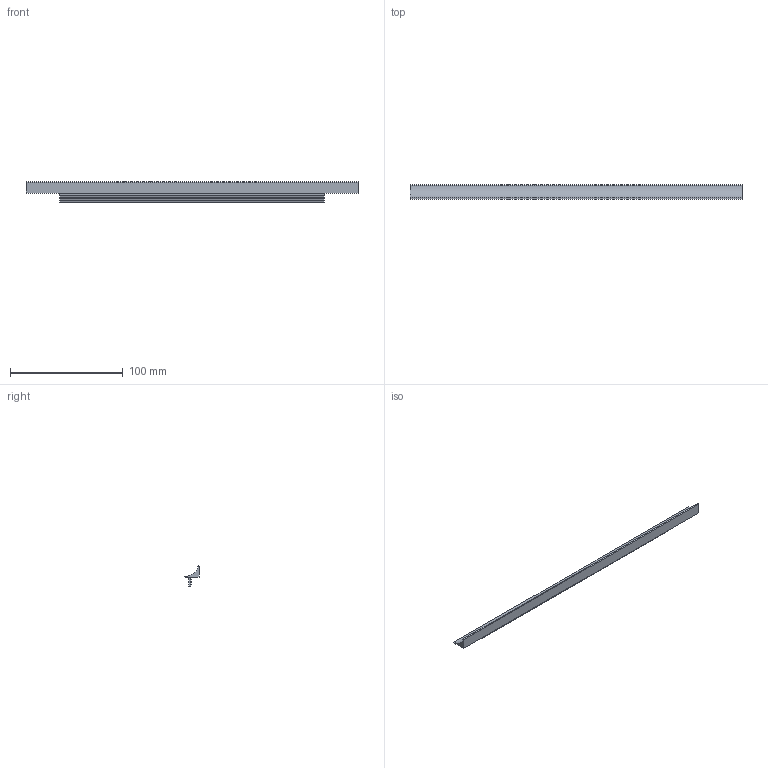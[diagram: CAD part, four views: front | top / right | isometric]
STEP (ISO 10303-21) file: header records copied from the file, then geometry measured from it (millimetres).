
FILE_DESCRIPTION( ( 'STEP AP214' ), '1' );
FILE_NAME( 'D:/Shahbaz D&D/Task/Working-ON/Correct Handle bar Riaza/QC/9208089/9208089.stp', '2023-03-13T08:59:35', ( '' ), ( '' ), ' ', 'PARTsolutions', ' ' );
FILE_SCHEMA( ( 'AUTOMOTIVE_DESIGN { 1 0 10303 214 1 1 1 1 }' ) );
Length unit declared in the file: millimetre
Products named in the file (1): _9208089
Bounding box: 295 x 12.5 x 18 mm (x, y, z)
Volume: 16108 mm3; surface area: 16537.3 mm2
Topology: 1 solids, 1 shells, 28 faces, 75 edges, 50 vertices
Faces by surface type: plane 25, cylinder 3
Entity records: 1105 total; most frequent: CARTESIAN_POINT 154, ORIENTED_EDGE 150, DIRECTION 139, EDGE_CURVE 75, LINE 69, VECTOR 69, VERTEX_POINT 50, AXIS2_PLACEMENT_3D 35
